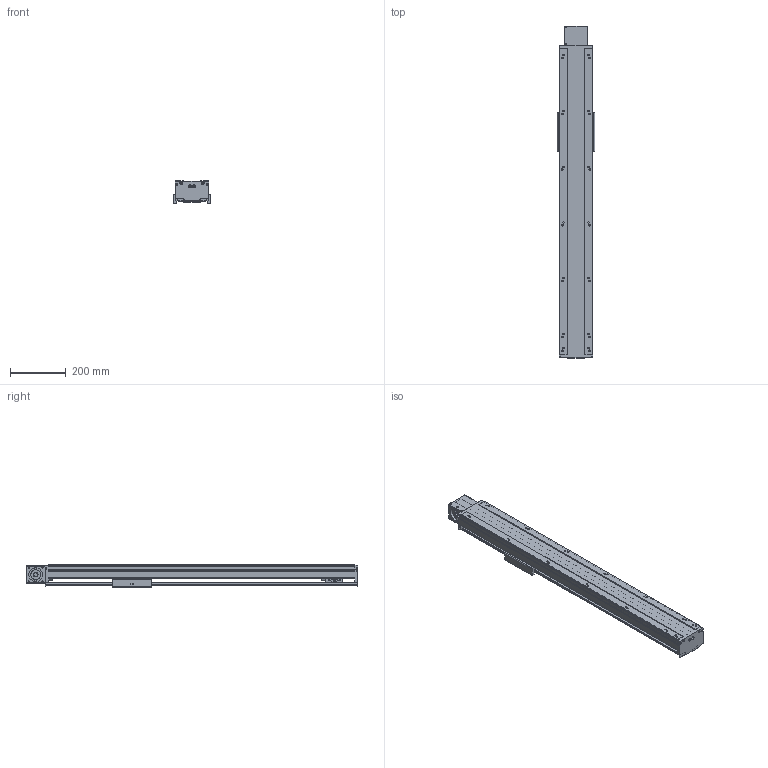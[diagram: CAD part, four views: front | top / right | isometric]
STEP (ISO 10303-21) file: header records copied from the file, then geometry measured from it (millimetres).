
FILE_DESCRIPTION(/* description */ (''),/* implementation_level */ '2;1');
FILE_NAME(/* name */ 'TKB120-FL-800_asm1_stp.stp',/* time_stamp */ '2016-06-28T15:22:08+08:00',/* author */ (''),/* organization */ (''),/* preprocessor_version */ 'ST-DEVELOPER v15',/* originating_system */ 'SIEMENS PLM Software NX 8.5',/* authorisation */ '');
FILE_SCHEMA (('AUTOMOTIVE_DESIGN { 1 0 10303 214 3 1 1 1 }'));
Length unit declared in the file: millimetre
Products named in the file (3): 200-2; 200-1; TKB120-FL-800_asm1_stp
Assembly tree (2 placements, depth 2):
  TKB120-FL-800_asm1_stp
    200-1
    200-2
Bounding box: 134 x 1191 x 80 mm (x, y, z)
Volume: 3189118.9 mm3; surface area: 1262362.2 mm2
Topology: 2 solids, 3 shells, 784 faces, 2241 edges, 1466 vertices
Faces by surface type: cylinder 383, plane 359, cone 42
Full cylindrical faces by diameter (mm): 2.5 x4, 3.3 x20, 4.2 x4, 4.5 x24, 5 x24, 5.5 x14, 6.6 x6, 6.8 x4, 7.5 x4, 8 x12, 9 x6, 9.75 x28, 10.5 x4, 11 x2, 12 x4, 14 x2, 17 x2, 35 x2, 40 x3, 50 x2, 52 x1
Entity records: 25396 total; most frequent: CARTESIAN_POINT 5379, DIRECTION 4219, ORIENTED_EDGE 3858, EDGE_CURVE 1929, AXIS2_PLACEMENT_3D 1600, VERTEX_POINT 1410, EDGE_LOOP 1165, LINE 1019
